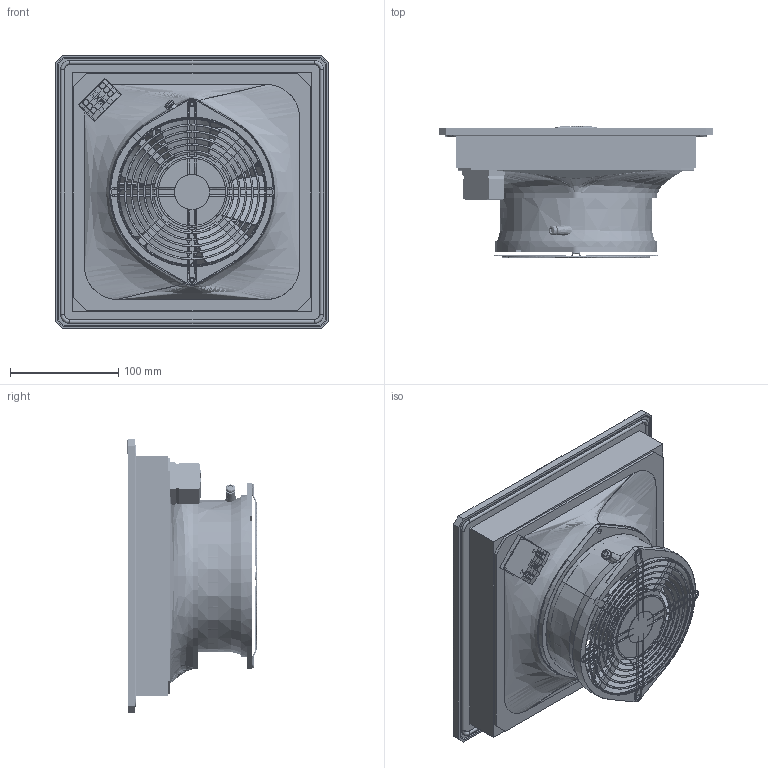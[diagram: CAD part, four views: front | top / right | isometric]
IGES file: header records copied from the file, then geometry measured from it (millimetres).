
Start section: SolidWorks IGES file using analytic representation for surfaces
Global section: file name: L:\3D Volumenmodelle\PF 43000_AC\PF43000_AC.IGS; native system: SolidWorks 2007; preprocessor: SolidWorks 2007; author: SEichler; date: 080104.141357; units: millimetre
Bounding box: 252 x 120.76 x 252 mm (x, y, z)
Surface area: 553048.1 mm2 (no closed solid volume)
Topology: 0 solids, 0 shells, 1930 faces, 28763 edges, 28722 vertices
Faces by surface type: bspline 1351, revolution 579
